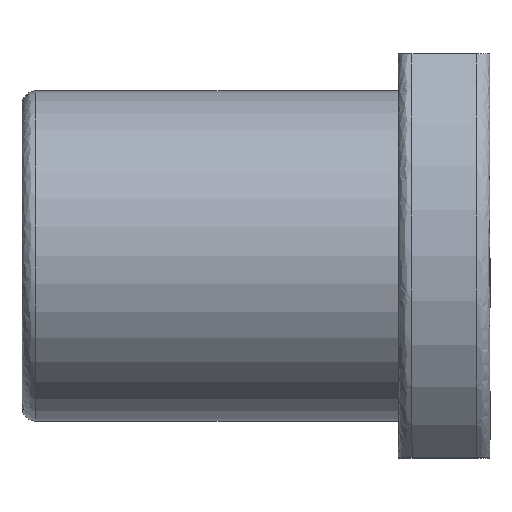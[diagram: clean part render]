
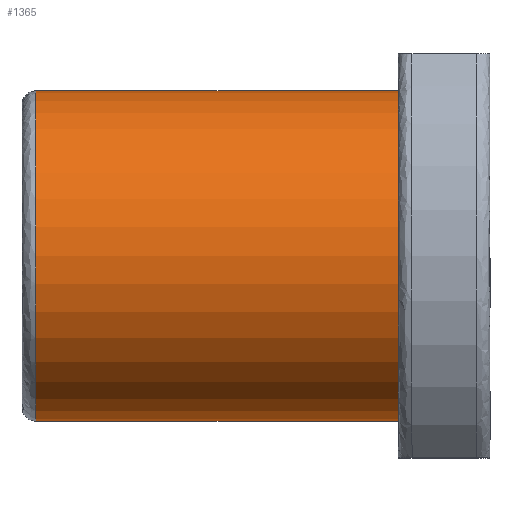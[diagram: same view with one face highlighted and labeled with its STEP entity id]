
A CAD part, top view. The second image highlights one B-rep face of the part: STEP entity #1365.
In plain terms, the highlighted cylindrical face has radius 18 mm (diameter 36 mm), a partial arc.
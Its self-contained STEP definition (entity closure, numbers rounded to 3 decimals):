
#15 = DIRECTION ( 'NONE',  ( -1., 0., 0. ) ) ;
#23 = CYLINDRICAL_SURFACE ( 'NONE', #1233, 18. ) ;
#77 = DIRECTION ( 'NONE',  ( 0., 1., 0. ) ) ;
#83 = EDGE_LOOP ( 'NONE', ( #1418, #1272, #414, #290 ) ) ;
#107 = VERTEX_POINT ( 'NONE', #1218 ) ;
#124 = LINE ( 'NONE', #410, #1710 ) ;
#165 = CIRCLE ( 'NONE', #1708, 18. ) ;
#263 = CARTESIAN_POINT ( 'NONE',  ( -64.5, -18., 0. ) ) ;
#273 = CARTESIAN_POINT ( 'NONE',  ( -25., 0., 0. ) ) ;
#290 = ORIENTED_EDGE ( 'NONE', *, *, #483, .F. ) ;
#410 = CARTESIAN_POINT ( 'NONE',  ( -64.5, 18., 0. ) ) ;
#414 = ORIENTED_EDGE ( 'NONE', *, *, #1370, .T. ) ;
#440 = DIRECTION ( 'NONE',  ( 0., 1., 0. ) ) ;
#483 = EDGE_CURVE ( 'NONE', #107, #1460, #124, .T. ) ;
#563 = DIRECTION ( 'NONE',  ( 1., 0., 0. ) ) ;
#585 = CARTESIAN_POINT ( 'NONE',  ( -64.5, 0., 0. ) ) ;
#624 = CARTESIAN_POINT ( 'NONE',  ( -64.5, 0., 0. ) ) ;
#681 = EDGE_CURVE ( 'NONE', #688, #1712, #1107, .T. ) ;
#688 = VERTEX_POINT ( 'NONE', #1088 ) ;
#920 = DIRECTION ( 'NONE',  ( 1., 0., 0. ) ) ;
#974 = DIRECTION ( 'NONE',  ( 0., 1., 0. ) ) ;
#984 = VECTOR ( 'NONE', #563, 1000. ) ;
#1088 = CARTESIAN_POINT ( 'NONE',  ( -64.5, -18., 0. ) ) ;
#1107 = LINE ( 'NONE', #263, #984 ) ;
#1218 = CARTESIAN_POINT ( 'NONE',  ( -64.5, 18., 0. ) ) ;
#1233 = AXIS2_PLACEMENT_3D ( 'NONE', #585, #1685, #974 ) ;
#1266 = CARTESIAN_POINT ( 'NONE',  ( -25., 18., 0. ) ) ;
#1268 = FACE_OUTER_BOUND ( 'NONE', #83, .T. ) ;
#1272 = ORIENTED_EDGE ( 'NONE', *, *, #681, .T. ) ;
#1353 = CARTESIAN_POINT ( 'NONE',  ( -25., -18., 0. ) ) ;
#1365 = ADVANCED_FACE ( 'NONE', ( #1268 ), #23, .T. ) ;
#1370 = EDGE_CURVE ( 'NONE', #1712, #1460, #1592, .T. ) ;
#1418 = ORIENTED_EDGE ( 'NONE', *, *, #1654, .T. ) ;
#1447 = AXIS2_PLACEMENT_3D ( 'NONE', #273, #15, #440 ) ;
#1460 = VERTEX_POINT ( 'NONE', #1266 ) ;
#1592 = CIRCLE ( 'NONE', #1447, 18. ) ;
#1654 = EDGE_CURVE ( 'NONE', #107, #688, #165, .T. ) ;
#1685 = DIRECTION ( 'NONE',  ( 1., 0., 0. ) ) ;
#1708 = AXIS2_PLACEMENT_3D ( 'NONE', #624, #920, #77 ) ;
#1710 = VECTOR ( 'NONE', #1828, 1000. ) ;
#1712 = VERTEX_POINT ( 'NONE', #1353 ) ;
#1828 = DIRECTION ( 'NONE',  ( 1., 0., 0. ) ) ;
